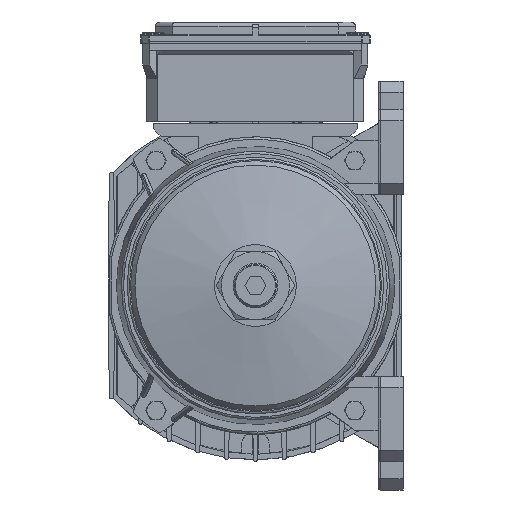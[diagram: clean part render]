
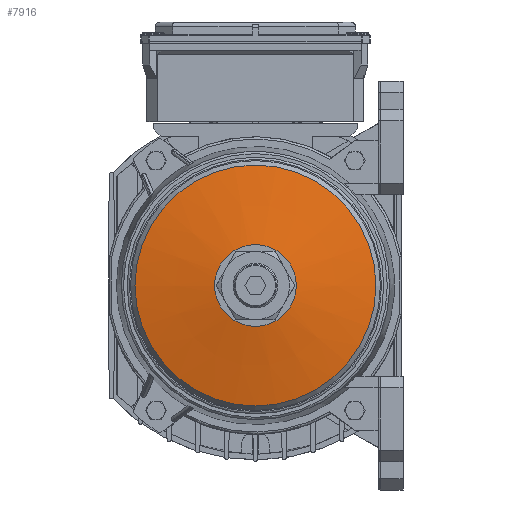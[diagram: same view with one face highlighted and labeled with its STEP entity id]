
A CAD part, left-side view. The second image highlights one B-rep face of the part: STEP entity #7916.
In plain terms, the highlighted conical face has half-angle 79.287 degrees and reference radius 55 mm.
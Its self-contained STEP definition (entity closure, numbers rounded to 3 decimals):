
#315=CONICAL_SURFACE('',#23822,55.,79.287);
#7916=ADVANCED_FACE('',(#8645,#8646),#315,.T.);
#8645=FACE_BOUND('',#10009,.T.);
#8646=FACE_BOUND('',#10010,.T.);
#10009=EDGE_LOOP('',(#15521));
#10010=EDGE_LOOP('',(#15522));
#15521=ORIENTED_EDGE('',*,*,#21099,.T.);
#15522=ORIENTED_EDGE('',*,*,#21103,.T.);
#17851=VERTEX_POINT('',#37587);
#17855=VERTEX_POINT('',#37598);
#21099=EDGE_CURVE('',#17851,#17851,#21950,.T.);
#21103=EDGE_CURVE('',#17855,#17855,#21954,.T.);
#21950=CIRCLE('',#23814,53.035);
#21954=CIRCLE('',#23821,18.);
#23814=AXIS2_PLACEMENT_3D('',#37586,#29801,#29802);
#23821=AXIS2_PLACEMENT_3D('',#37597,#29815,#29816);
#23822=AXIS2_PLACEMENT_3D('',#37599,#29817,#29818);
#29801=DIRECTION('',(-1.,0.,0.));
#29802=DIRECTION('',(0.,1.,0.));
#29815=DIRECTION('',(1.,0.,0.));
#29816=DIRECTION('',(0.,-1.,0.));
#29817=DIRECTION('',(1.,0.,0.));
#29818=DIRECTION('',(0.,-1.,0.));
#37586=CARTESIAN_POINT('',(-238.372,0.,0.));
#37587=CARTESIAN_POINT('',(-238.372,53.035,0.));
#37597=CARTESIAN_POINT('',(-245.,0.,0.));
#37598=CARTESIAN_POINT('',(-245.,-18.,0.));
#37599=CARTESIAN_POINT('',(-238.,0.,0.));
